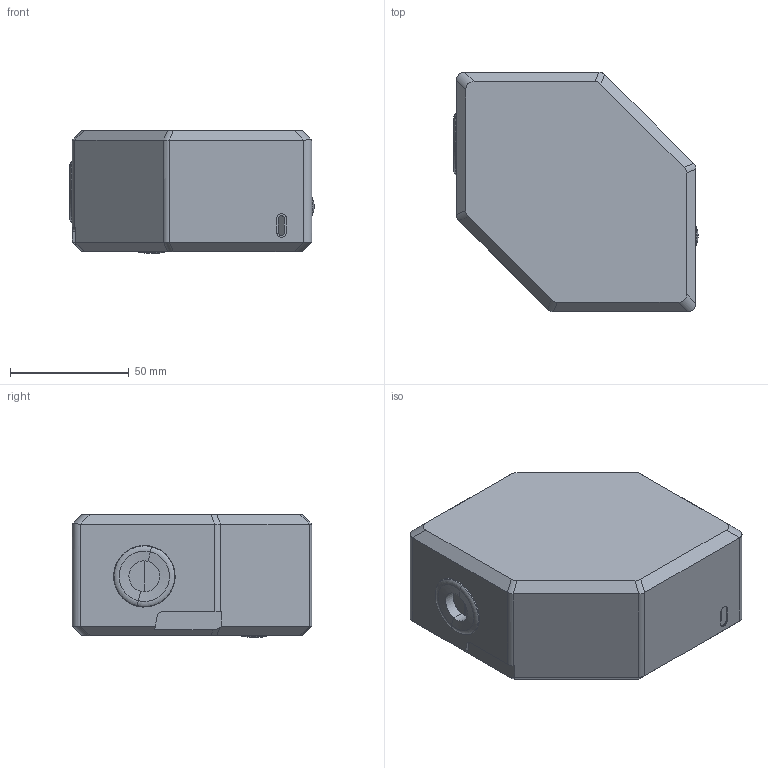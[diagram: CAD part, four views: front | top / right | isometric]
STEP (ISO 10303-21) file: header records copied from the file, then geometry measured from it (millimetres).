
FILE_DESCRIPTION (( 'STEP AP214' ), '1' );
FILE_NAME ('MISS C1.STEP', '2022-10-10T17:08:49', ( '' ), ( '' ), 'SwSTEP 2.0', 'SolidWorks 2020', '' );
FILE_SCHEMA (( 'AUTOMOTIVE_DESIGN' ));
Length unit declared in the file: millimetre
Products named in the file (1): MISS C1
Bounding box: 102.99 x 101 x 51.77 mm (x, y, z)
Surface area: 42906.4 mm2 (no closed solid volume)
Topology: 0 solids, 21 shells, 188 faces, 667 edges, 494 vertices
Faces by surface type: cylinder 84, plane 73, cone 18, torus 8, sphere 5
Entity records: 9779 total; most frequent: CARTESIAN_POINT 1928, DIRECTION 1252, ORIENTED_EDGE 1037, EDGE_CURVE 667, VERTEX_POINT 494, AXIS2_PLACEMENT_3D 456, VECTOR 340, LINE 340
